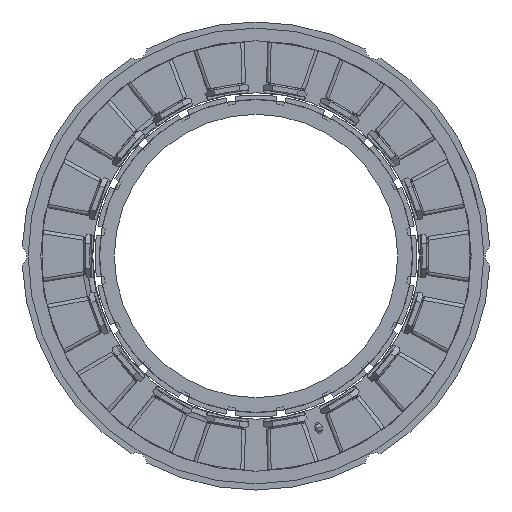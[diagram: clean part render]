
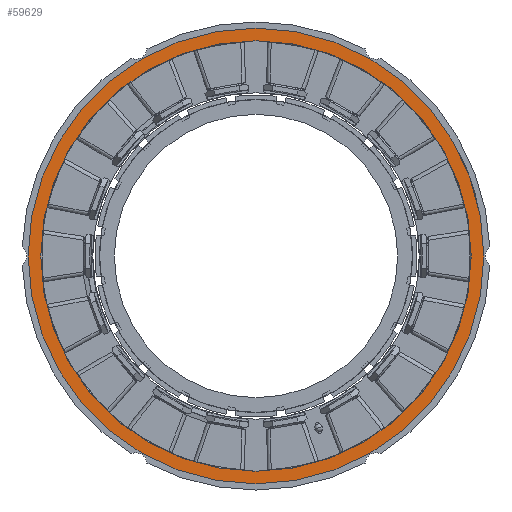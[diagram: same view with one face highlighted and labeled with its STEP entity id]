
A CAD part, left-side view. The second image highlights one B-rep face of the part: STEP entity #59629.
In plain terms, the highlighted planar face has unit normal (-1, 0, 0).
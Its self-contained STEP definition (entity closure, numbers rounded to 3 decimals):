
#8122=CARTESIAN_POINT('',(-4.1,0.,0.));
#8123=DIRECTION('',(-1.,0.,0.));
#8124=DIRECTION('',(0.,0.,-1.));
#8125=AXIS2_PLACEMENT_3D('',#8122,#8123,#8124);
#8127=CARTESIAN_POINT('',(-4.1,0.,0.));
#8128=DIRECTION('',(-1.,0.,0.));
#8129=DIRECTION('',(0.,0.,1.));
#8130=AXIS2_PLACEMENT_3D('',#8127,#8128,#8129);
#8132=CARTESIAN_POINT('',(-4.1,0.,0.));
#8133=DIRECTION('',(1.,0.,0.));
#8134=DIRECTION('',(0.,0.,-1.));
#8135=AXIS2_PLACEMENT_3D('',#8132,#8133,#8134);
#8137=CARTESIAN_POINT('',(-4.1,0.,0.));
#8138=DIRECTION('',(1.,0.,0.));
#8139=DIRECTION('',(0.,0.,1.));
#8140=AXIS2_PLACEMENT_3D('',#8137,#8138,#8139);
#44457=CARTESIAN_POINT('',(-4.1,0.,-34.95));
#44458=CARTESIAN_POINT('',(-4.1,0.,34.95));
#44459=VERTEX_POINT('',#44457);
#44460=VERTEX_POINT('',#44458);
#44465=CARTESIAN_POINT('',(-4.1,0.,-37.));
#44466=CARTESIAN_POINT('',(-4.1,0.,37.));
#44467=VERTEX_POINT('',#44465);
#44468=VERTEX_POINT('',#44466);
#59614=CARTESIAN_POINT('',(-4.1,0.,0.));
#59615=DIRECTION('',(-1.,0.,0.));
#59616=DIRECTION('',(0.,0.,-1.));
#59617=AXIS2_PLACEMENT_3D('',#59614,#59615,#59616);
#59618=PLANE('',#59617);
#59619=ORIENTED_EDGE('',*,*,#59606,.F.);
#59620=ORIENTED_EDGE('',*,*,#59586,.F.);
#59621=EDGE_LOOP('',(#59619,#59620));
#59622=FACE_OUTER_BOUND('',#59621,.F.);
#59624=ORIENTED_EDGE('',*,*,#59623,.F.);
#59626=ORIENTED_EDGE('',*,*,#59625,.F.);
#59627=EDGE_LOOP('',(#59624,#59626));
#59628=FACE_BOUND('',#59627,.F.);
#59629=ADVANCED_FACE('',(#59622,#59628),#59618,.T.);
#8126=CIRCLE('',#8125,37.);
#8131=CIRCLE('',#8130,37.);
#8136=CIRCLE('',#8135,34.95);
#8141=CIRCLE('',#8140,34.95);
#59586=EDGE_CURVE('',#44468,#44467,#8131,.T.);
#59606=EDGE_CURVE('',#44467,#44468,#8126,.T.);
#59623=EDGE_CURVE('',#44459,#44460,#8136,.T.);
#59625=EDGE_CURVE('',#44460,#44459,#8141,.T.);
